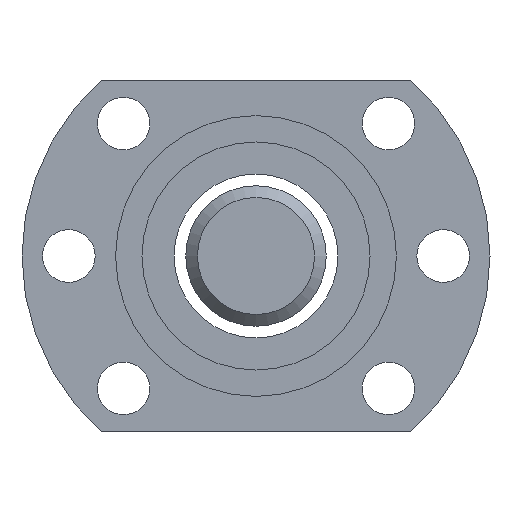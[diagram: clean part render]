
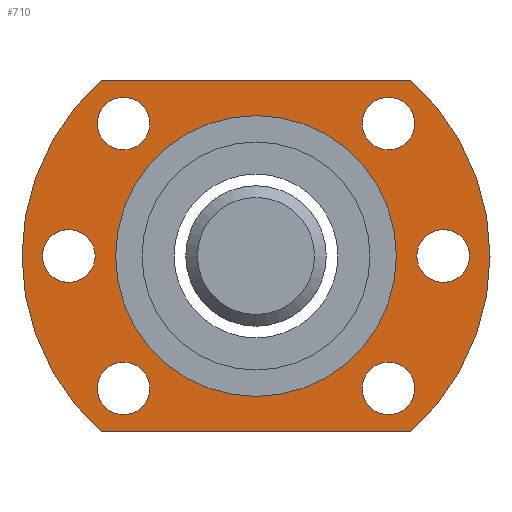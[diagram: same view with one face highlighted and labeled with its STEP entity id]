
A CAD part, left-side view. The second image highlights one B-rep face of the part: STEP entity #710.
In plain terms, the highlighted planar face has unit normal (-1, 0, 0).
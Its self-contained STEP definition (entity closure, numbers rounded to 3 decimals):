
#7 = FACE_BOUND ( 'NONE', #1028, .T. ) ;
#25 = EDGE_LOOP ( 'NONE', ( #1158 ) ) ;
#40 = DIRECTION ( 'NONE',  ( 0., -1., 0. ) ) ;
#46 = CARTESIAN_POINT ( 'NONE',  ( -68.892, -55.639, -38.275 ) ) ;
#53 = CARTESIAN_POINT ( 'NONE',  ( -68.892, -82.096, -38.275 ) ) ;
#60 = CIRCLE ( 'NONE', #160, 2.25 ) ;
#66 = ORIENTED_EDGE ( 'NONE', *, *, #308, .F. ) ;
#81 = LINE ( 'NONE', #632, #700 ) ;
#90 = DIRECTION ( 'NONE',  ( -1., 0., 0. ) ) ;
#92 = CIRCLE ( 'NONE', #770, 20. ) ;
#100 = CIRCLE ( 'NONE', #1149, 2.25 ) ;
#123 = FACE_BOUND ( 'NONE', #480, .T. ) ;
#126 = ORIENTED_EDGE ( 'NONE', *, *, #642, .T. ) ;
#136 = LINE ( 'NONE', #524, #283 ) ;
#143 = CARTESIAN_POINT ( 'NONE',  ( -68.892, -80.181, -32.339 ) ) ;
#148 = AXIS2_PLACEMENT_3D ( 'NONE', #666, #470, #580 ) ;
#160 = AXIS2_PLACEMENT_3D ( 'NONE', #243, #889, #319 ) ;
#165 = VERTEX_POINT ( 'NONE', #804 ) ;
#168 = CARTESIAN_POINT ( 'NONE',  ( -68.892, -82.096, -8.275 ) ) ;
#172 = EDGE_LOOP ( 'NONE', ( #604, #596, #183, #1023 ) ) ;
#183 = ORIENTED_EDGE ( 'NONE', *, *, #731, .T. ) ;
#191 = EDGE_LOOP ( 'NONE', ( #797 ) ) ;
#202 = EDGE_LOOP ( 'NONE', ( #487 ) ) ;
#213 = FACE_BOUND ( 'NONE', #202, .T. ) ;
#218 = ORIENTED_EDGE ( 'NONE', *, *, #832, .T. ) ;
#231 = CARTESIAN_POINT ( 'NONE',  ( -68.892, -57.554, -34.589 ) ) ;
#242 = ORIENTED_EDGE ( 'NONE', *, *, #1137, .F. ) ;
#243 = CARTESIAN_POINT ( 'NONE',  ( -68.892, -84.867, -23.275 ) ) ;
#246 = CIRCLE ( 'NONE', #1102, 2.25 ) ;
#282 = FACE_BOUND ( 'NONE', #191, .T. ) ;
#283 = VECTOR ( 'NONE', #40, 1000. ) ;
#289 = VERTEX_POINT ( 'NONE', #53 ) ;
#308 = EDGE_CURVE ( 'NONE', #309, #309, #1103, .T. ) ;
#309 = VERTEX_POINT ( 'NONE', #976 ) ;
#315 = VERTEX_POINT ( 'NONE', #686 ) ;
#319 = DIRECTION ( 'NONE',  ( 0., 0., 1. ) ) ;
#320 = DIRECTION ( 'NONE',  ( -1., 0., 0. ) ) ;
#322 = VERTEX_POINT ( 'NONE', #1061 ) ;
#323 = VERTEX_POINT ( 'NONE', #46 ) ;
#343 = CARTESIAN_POINT ( 'NONE',  ( -68.892, -52.867, -21.025 ) ) ;
#362 = VERTEX_POINT ( 'NONE', #519 ) ;
#373 = EDGE_CURVE ( 'NONE', #323, #289, #136, .T. ) ;
#376 = CARTESIAN_POINT ( 'NONE',  ( -68.892, -68.867, -23.275 ) ) ;
#377 = CIRCLE ( 'NONE', #582, 20. ) ;
#378 = CIRCLE ( 'NONE', #844, 12. ) ;
#382 = DIRECTION ( 'NONE',  ( 0., 0., -1. ) ) ;
#392 = DIRECTION ( 'NONE',  ( -1., 0., 0. ) ) ;
#428 = EDGE_CURVE ( 'NONE', #705, #705, #809, .T. ) ;
#439 = CARTESIAN_POINT ( 'NONE',  ( -68.892, -57.554, -32.339 ) ) ;
#467 = DIRECTION ( 'NONE',  ( 1., 0., 0. ) ) ;
#469 = CARTESIAN_POINT ( 'NONE',  ( -68.892, -68.867, -23.275 ) ) ;
#470 = DIRECTION ( 'NONE',  ( -1., 0., 0. ) ) ;
#480 = EDGE_LOOP ( 'NONE', ( #126 ) ) ;
#487 = ORIENTED_EDGE ( 'NONE', *, *, #428, .T. ) ;
#502 = DIRECTION ( 'NONE',  ( 0., 0., 1. ) ) ;
#519 = CARTESIAN_POINT ( 'NONE',  ( -68.892, -55.639, -8.275 ) ) ;
#524 = CARTESIAN_POINT ( 'NONE',  ( -68.892, -55.639, -38.275 ) ) ;
#527 = AXIS2_PLACEMENT_3D ( 'NONE', #231, #771, #502 ) ;
#551 = DIRECTION ( 'NONE',  ( -1., 0., 0. ) ) ;
#557 = EDGE_CURVE ( 'NONE', #576, #362, #81, .T. ) ;
#561 = FACE_BOUND ( 'NONE', #773, .T. ) ;
#573 = AXIS2_PLACEMENT_3D ( 'NONE', #985, #320, #973 ) ;
#576 = VERTEX_POINT ( 'NONE', #168 ) ;
#580 = DIRECTION ( 'NONE',  ( 0., 0., 1. ) ) ;
#582 = AXIS2_PLACEMENT_3D ( 'NONE', #885, #611, #1148 ) ;
#596 = ORIENTED_EDGE ( 'NONE', *, *, #373, .T. ) ;
#604 = ORIENTED_EDGE ( 'NONE', *, *, #825, .T. ) ;
#608 = VERTEX_POINT ( 'NONE', #343 ) ;
#611 = DIRECTION ( 'NONE',  ( -1., 0., 0. ) ) ;
#612 = DIRECTION ( 'NONE',  ( 0., 0., 1. ) ) ;
#632 = CARTESIAN_POINT ( 'NONE',  ( -68.892, -82.096, -8.275 ) ) ;
#642 = EDGE_CURVE ( 'NONE', #322, #322, #246, .T. ) ;
#646 = CARTESIAN_POINT ( 'NONE',  ( -68.892, -80.181, -11.961 ) ) ;
#666 = CARTESIAN_POINT ( 'NONE',  ( -68.892, -68.867, -23.275 ) ) ;
#686 = CARTESIAN_POINT ( 'NONE',  ( -68.892, -84.867, -21.025 ) ) ;
#700 = VECTOR ( 'NONE', #905, 1000. ) ;
#705 = VERTEX_POINT ( 'NONE', #143 ) ;
#710 = ADVANCED_FACE ( 'NONE', ( #123, #213, #282, #7, #754, #1130, #869, #561 ), #857, .T. ) ;
#731 = EDGE_CURVE ( 'NONE', #289, #576, #92, .T. ) ;
#743 = DIRECTION ( 'NONE',  ( 0., 0., 1. ) ) ;
#754 = FACE_BOUND ( 'NONE', #25, .T. ) ;
#764 = CARTESIAN_POINT ( 'NONE',  ( -68.892, -52.867, -23.275 ) ) ;
#770 = AXIS2_PLACEMENT_3D ( 'NONE', #376, #392, #382 ) ;
#771 = DIRECTION ( 'NONE',  ( -1., 0., 0. ) ) ;
#773 = EDGE_LOOP ( 'NONE', ( #218 ) ) ;
#797 = ORIENTED_EDGE ( 'NONE', *, *, #871, .F. ) ;
#804 = CARTESIAN_POINT ( 'NONE',  ( -68.892, -68.867, -35.275 ) ) ;
#809 = CIRCLE ( 'NONE', #961, 2.25 ) ;
#825 = EDGE_CURVE ( 'NONE', #362, #323, #377, .T. ) ;
#828 = VERTEX_POINT ( 'NONE', #439 ) ;
#832 = EDGE_CURVE ( 'NONE', #315, #315, #60, .T. ) ;
#844 = AXIS2_PLACEMENT_3D ( 'NONE', #469, #551, #925 ) ;
#857 = PLANE ( 'NONE',  #148 ) ;
#869 = FACE_BOUND ( 'NONE', #1141, .T. ) ;
#871 = EDGE_CURVE ( 'NONE', #828, #828, #899, .T. ) ;
#876 = CARTESIAN_POINT ( 'NONE',  ( -68.892, -80.181, -34.589 ) ) ;
#885 = CARTESIAN_POINT ( 'NONE',  ( -68.892, -68.867, -23.275 ) ) ;
#889 = DIRECTION ( 'NONE',  ( 1., 0., 0. ) ) ;
#899 = CIRCLE ( 'NONE', #527, 2.25 ) ;
#905 = DIRECTION ( 'NONE',  ( 0., 1., 0. ) ) ;
#925 = DIRECTION ( 'NONE',  ( 0., 0., -1. ) ) ;
#961 = AXIS2_PLACEMENT_3D ( 'NONE', #876, #968, #612 ) ;
#968 = DIRECTION ( 'NONE',  ( 1., 0., 0. ) ) ;
#973 = DIRECTION ( 'NONE',  ( 0., 0., 1. ) ) ;
#976 = CARTESIAN_POINT ( 'NONE',  ( -68.892, -57.554, -9.711 ) ) ;
#985 = CARTESIAN_POINT ( 'NONE',  ( -68.892, -57.554, -11.961 ) ) ;
#1023 = ORIENTED_EDGE ( 'NONE', *, *, #557, .T. ) ;
#1028 = EDGE_LOOP ( 'NONE', ( #66 ) ) ;
#1061 = CARTESIAN_POINT ( 'NONE',  ( -68.892, -80.181, -9.711 ) ) ;
#1102 = AXIS2_PLACEMENT_3D ( 'NONE', #646, #467, #743 ) ;
#1103 = CIRCLE ( 'NONE', #573, 2.25 ) ;
#1129 = DIRECTION ( 'NONE',  ( 0., 0., 1. ) ) ;
#1130 = FACE_OUTER_BOUND ( 'NONE', #172, .T. ) ;
#1137 = EDGE_CURVE ( 'NONE', #165, #165, #378, .T. ) ;
#1141 = EDGE_LOOP ( 'NONE', ( #242 ) ) ;
#1148 = DIRECTION ( 'NONE',  ( 0., 0., -1. ) ) ;
#1149 = AXIS2_PLACEMENT_3D ( 'NONE', #764, #90, #1129 ) ;
#1158 = ORIENTED_EDGE ( 'NONE', *, *, #1197, .F. ) ;
#1197 = EDGE_CURVE ( 'NONE', #608, #608, #100, .T. ) ;
